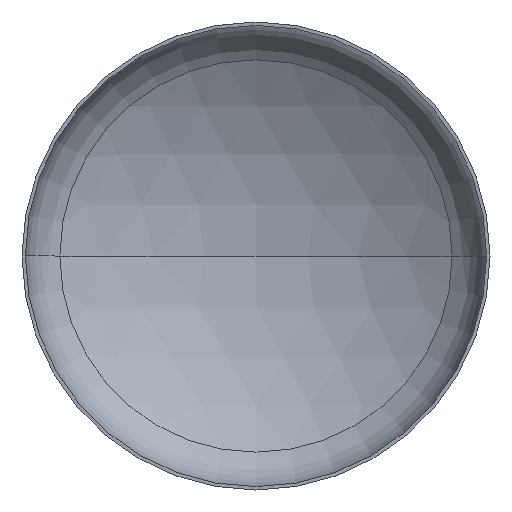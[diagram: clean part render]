
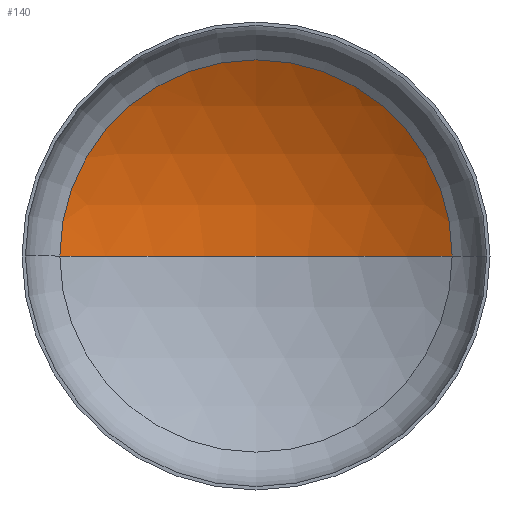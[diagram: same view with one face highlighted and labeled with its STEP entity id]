
A CAD part, front view. The second image highlights one B-rep face of the part: STEP entity #140.
In plain terms, the highlighted spherical face has radius 2720 mm.
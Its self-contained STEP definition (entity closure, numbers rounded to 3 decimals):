
#10 = AXIS2_PLACEMENT_3D ( 'NONE', #254, #191, #232 ) ;
#17 = AXIS2_PLACEMENT_3D ( 'NONE', #206, #215, #211 ) ;
#19 = DIRECTION ( 'NONE',  ( 0., -1., 0. ) ) ;
#20 = EDGE_LOOP ( 'NONE', ( #124, #133, #102 ) ) ;
#25 = AXIS2_PLACEMENT_3D ( 'NONE', #382, #407, #262 ) ;
#26 = CARTESIAN_POINT ( 'NONE',  ( 0., 522.179, 0. ) ) ;
#27 = AXIS2_PLACEMENT_3D ( 'NONE', #26, #19, #86 ) ;
#36 = VERTEX_POINT ( 'NONE', #277 ) ;
#81 = VERTEX_POINT ( 'NONE', #229 ) ;
#86 = DIRECTION ( 'NONE',  ( 1., 0., 0. ) ) ;
#97 = EDGE_CURVE ( 'NONE', #36, #132, #195, .T. ) ;
#100 = EDGE_CURVE ( 'NONE', #81, #36, #118, .T. ) ;
#102 = ORIENTED_EDGE ( 'NONE', *, *, #97, .T. ) ;
#103 = EDGE_CURVE ( 'NONE', #81, #132, #374, .T. ) ;
#118 = CIRCLE ( 'NONE', #25, 2720. ) ;
#124 = ORIENTED_EDGE ( 'NONE', *, *, #103, .F. ) ;
#132 = VERTEX_POINT ( 'NONE', #248 ) ;
#133 = ORIENTED_EDGE ( 'NONE', *, *, #100, .T. ) ;
#140 = ADVANCED_FACE ( 'NONE', ( #187 ), #313, .F. ) ;
#187 = FACE_OUTER_BOUND ( 'NONE', #20, .T. ) ;
#191 = DIRECTION ( 'NONE',  ( 0., 0., -1. ) ) ;
#195 = CIRCLE ( 'NONE', #27, 1425.057 ) ;
#206 = CARTESIAN_POINT ( 'NONE',  ( 0., -1794.632, 0. ) ) ;
#211 = DIRECTION ( 'NONE',  ( 1., 0., 0. ) ) ;
#215 = DIRECTION ( 'NONE',  ( 0., 0., 1. ) ) ;
#229 = CARTESIAN_POINT ( 'NONE',  ( 0., 925.368, 0. ) ) ;
#232 = DIRECTION ( 'NONE',  ( -1., 0., 0. ) ) ;
#248 = CARTESIAN_POINT ( 'NONE',  ( -1425.057, 522.179, 0. ) ) ;
#254 = CARTESIAN_POINT ( 'NONE',  ( 0., -1794.632, 0. ) ) ;
#262 = DIRECTION ( 'NONE',  ( -1., 0., 0. ) ) ;
#277 = CARTESIAN_POINT ( 'NONE',  ( 1425.057, 522.179, 0. ) ) ;
#313 = SPHERICAL_SURFACE ( 'NONE', #10, 2720. ) ;
#374 = CIRCLE ( 'NONE', #17, 2720. ) ;
#382 = CARTESIAN_POINT ( 'NONE',  ( 0., -1794.632, 0. ) ) ;
#407 = DIRECTION ( 'NONE',  ( 0., 0., -1. ) ) ;
